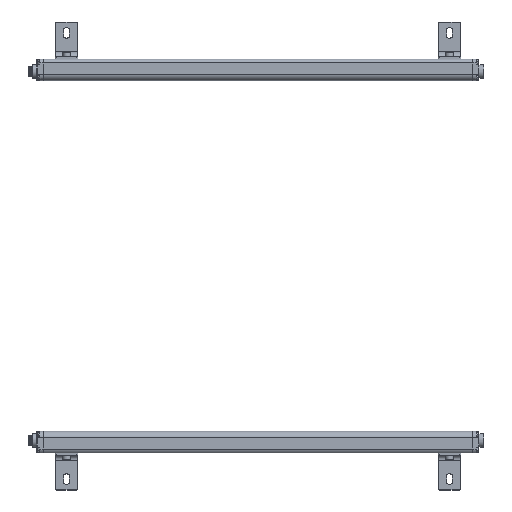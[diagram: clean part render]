
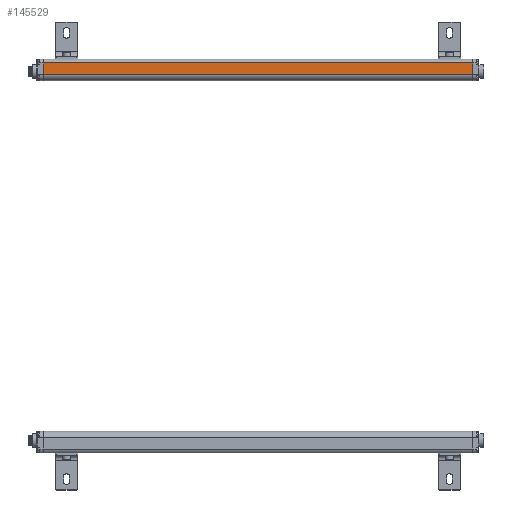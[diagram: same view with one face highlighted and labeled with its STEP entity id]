
A CAD part, left-side view. The second image highlights one B-rep face of the part: STEP entity #145529.
In plain terms, the highlighted planar face has unit normal (-1, 0, 0).
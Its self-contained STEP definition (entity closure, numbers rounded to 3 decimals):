
#4044 = DIRECTION ( 'NONE',  ( -1., 0., 0. ) ) ;
#6091 = LINE ( 'NONE', #72592, #18576 ) ;
#11232 = LINE ( 'NONE', #68388, #48862 ) ;
#18576 = VECTOR ( 'NONE', #129702, 1000. ) ;
#18584 = VERTEX_POINT ( 'NONE', #112295 ) ;
#23613 = ORIENTED_EDGE ( 'NONE', *, *, #49056, .F. ) ;
#39352 = DIRECTION ( 'NONE',  ( 0., 0., 1. ) ) ;
#42328 = CARTESIAN_POINT ( 'NONE',  ( -17.35, 0., 8.225 ) ) ;
#44912 = DIRECTION ( 'NONE',  ( 0., -1., 0. ) ) ;
#48862 = VECTOR ( 'NONE', #44912, 1000. ) ;
#49056 = EDGE_CURVE ( 'NONE', #18584, #127723, #140354, .T. ) ;
#52129 = VERTEX_POINT ( 'NONE', #42328 ) ;
#53257 = EDGE_CURVE ( 'NONE', #117636, #52129, #6091, .T. ) ;
#60840 = CARTESIAN_POINT ( 'NONE',  ( -17.35, 545., 8.225 ) ) ;
#68388 = CARTESIAN_POINT ( 'NONE',  ( -17.35, 0., 8.225 ) ) ;
#69676 = DIRECTION ( 'NONE',  ( 0., -1., 0. ) ) ;
#72227 = VECTOR ( 'NONE', #39352, 1000. ) ;
#72592 = CARTESIAN_POINT ( 'NONE',  ( -17.35, 0., 0. ) ) ;
#72593 = CARTESIAN_POINT ( 'NONE',  ( -17.35, 0., -6.175 ) ) ;
#80687 = CARTESIAN_POINT ( 'NONE',  ( -17.35, 0., -6.175 ) ) ;
#80853 = EDGE_CURVE ( 'NONE', #18584, #117636, #141069, .T. ) ;
#84669 = CARTESIAN_POINT ( 'NONE',  ( -17.35, 0., -6.175 ) ) ;
#89053 = VECTOR ( 'NONE', #69676, 1000. ) ;
#96916 = CARTESIAN_POINT ( 'NONE',  ( -17.35, 545., 0. ) ) ;
#99426 = ORIENTED_EDGE ( 'NONE', *, *, #53257, .T. ) ;
#107157 = DIRECTION ( 'NONE',  ( 0., 0., 1. ) ) ;
#107656 = PLANE ( 'NONE',  #129883 ) ;
#112295 = CARTESIAN_POINT ( 'NONE',  ( -17.35, 545., -6.175 ) ) ;
#117636 = VERTEX_POINT ( 'NONE', #84669 ) ;
#121001 = ORIENTED_EDGE ( 'NONE', *, *, #121220, .F. ) ;
#121220 = EDGE_CURVE ( 'NONE', #127723, #52129, #11232, .T. ) ;
#127723 = VERTEX_POINT ( 'NONE', #60840 ) ;
#129702 = DIRECTION ( 'NONE',  ( 0., 0., 1. ) ) ;
#129883 = AXIS2_PLACEMENT_3D ( 'NONE', #72593, #4044, #107157 ) ;
#139922 = ORIENTED_EDGE ( 'NONE', *, *, #80853, .T. ) ;
#140354 = LINE ( 'NONE', #96916, #72227 ) ;
#141069 = LINE ( 'NONE', #80687, #89053 ) ;
#145529 = ADVANCED_FACE ( 'NONE', ( #146582 ), #107656, .T. ) ;
#146582 = FACE_OUTER_BOUND ( 'NONE', #146833, .T. ) ;
#146833 = EDGE_LOOP ( 'NONE', ( #139922, #99426, #121001, #23613 ) ) ;
